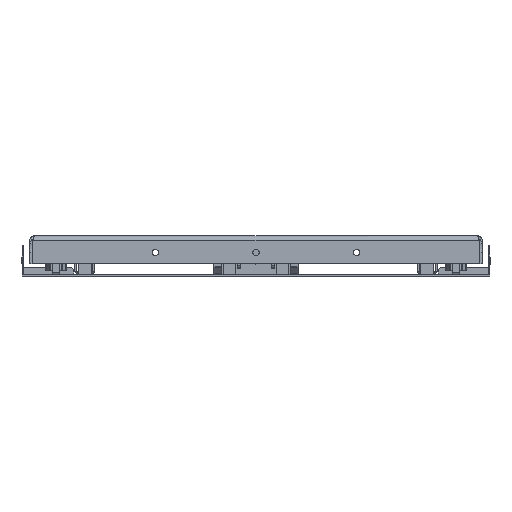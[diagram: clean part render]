
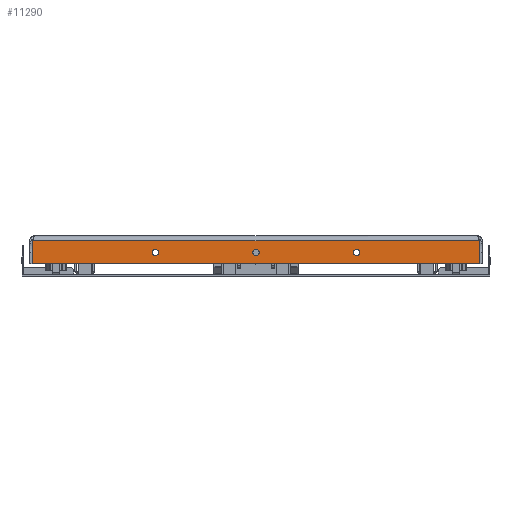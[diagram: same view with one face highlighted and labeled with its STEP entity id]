
A CAD part, left-side view. The second image highlights one B-rep face of the part: STEP entity #11290.
In plain terms, the highlighted planar face has unit normal (-1, 0, 0) as drawn and (0, -1, 0) by its records, which use the part's own axes.
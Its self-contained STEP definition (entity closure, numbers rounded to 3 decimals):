
#667=PLANE('',#12550);
#1538=LINE('',#19637,#2538);
#1554=LINE('',#19770,#2554);
#1556=LINE('',#19774,#2556);
#1557=LINE('',#19776,#2557);
#1558=LINE('',#19778,#2558);
#1559=LINE('',#19779,#2559);
#2538=VECTOR('',#15427,10.);
#2554=VECTOR('',#15455,10.);
#2556=VECTOR('',#15459,10.);
#2557=VECTOR('',#15460,10.);
#2558=VECTOR('',#15461,10.);
#2559=VECTOR('',#15462,10.);
#2886=FACE_BOUND('',#4165,.T.);
#2887=FACE_BOUND('',#4166,.T.);
#2888=FACE_BOUND('',#4167,.T.);
#3399=FACE_OUTER_BOUND('',#4164,.T.);
#4164=EDGE_LOOP('',(#9839,#9840,#9841,#9842,#9843,#9844));
#4165=EDGE_LOOP('',(#9845));
#4166=EDGE_LOOP('',(#9846));
#4167=EDGE_LOOP('',(#9847));
#4523=CIRCLE('',#12126,6.25);
#4525=CIRCLE('',#12129,6.25);
#4527=CIRCLE('',#12132,6.25);
#5214=VERTEX_POINT('',#18295);
#5216=VERTEX_POINT('',#18300);
#5218=VERTEX_POINT('',#18305);
#5645=VERTEX_POINT('',#19635);
#5646=VERTEX_POINT('',#19636);
#5666=VERTEX_POINT('',#19769);
#5667=VERTEX_POINT('',#19773);
#5668=VERTEX_POINT('',#19775);
#5669=VERTEX_POINT('',#19777);
#6467=EDGE_CURVE('',#5214,#5214,#4523,.T.);
#6469=EDGE_CURVE('',#5216,#5216,#4525,.T.);
#6471=EDGE_CURVE('',#5218,#5218,#4527,.T.);
#7106=EDGE_CURVE('',#5645,#5646,#1538,.T.);
#7133=EDGE_CURVE('',#5645,#5666,#1554,.T.);
#7135=EDGE_CURVE('',#5646,#5667,#1556,.T.);
#7136=EDGE_CURVE('',#5667,#5668,#1557,.T.);
#7137=EDGE_CURVE('',#5669,#5668,#1558,.T.);
#7138=EDGE_CURVE('',#5666,#5669,#1559,.T.);
#9839=ORIENTED_EDGE('',*,*,#7106,.T.);
#9840=ORIENTED_EDGE('',*,*,#7135,.T.);
#9841=ORIENTED_EDGE('',*,*,#7136,.T.);
#9842=ORIENTED_EDGE('',*,*,#7137,.F.);
#9843=ORIENTED_EDGE('',*,*,#7138,.F.);
#9844=ORIENTED_EDGE('',*,*,#7133,.F.);
#9845=ORIENTED_EDGE('',*,*,#6467,.T.);
#9846=ORIENTED_EDGE('',*,*,#6469,.T.);
#9847=ORIENTED_EDGE('',*,*,#6471,.T.);
#11290=ADVANCED_FACE('',(#3399,#2886,#2887,#2888),#667,.T.);
#12126=AXIS2_PLACEMENT_3D('',#18296,#14154,#14155);
#12129=AXIS2_PLACEMENT_3D('',#18301,#14160,#14161);
#12132=AXIS2_PLACEMENT_3D('',#18306,#14166,#14167);
#12550=AXIS2_PLACEMENT_3D('',#19772,#15457,#15458);
#14154=DIRECTION('center_axis',(0.,1.,0.));
#14155=DIRECTION('ref_axis',(1.,0.,0.));
#14160=DIRECTION('center_axis',(0.,1.,0.));
#14161=DIRECTION('ref_axis',(1.,0.,0.));
#14166=DIRECTION('center_axis',(0.,1.,0.));
#14167=DIRECTION('ref_axis',(1.,0.,0.));
#15427=DIRECTION('',(-0.057,0.,0.998));
#15455=DIRECTION('',(0.,0.,-1.));
#15457=DIRECTION('center_axis',(0.,-1.,0.));
#15458=DIRECTION('ref_axis',(1.,0.,0.));
#15459=DIRECTION('',(-1.,0.,0.));
#15460=DIRECTION('',(-0.057,0.,-0.998));
#15461=DIRECTION('',(0.,0.,1.));
#15462=DIRECTION('',(-1.,0.,0.));
#18295=CARTESIAN_POINT('',(206.25,-750.,-28.));
#18296=CARTESIAN_POINT('Origin',(200.,-750.,-28.));
#18300=CARTESIAN_POINT('',(6.25,-750.,-28.));
#18301=CARTESIAN_POINT('Origin',(0.,-750.,-28.));
#18305=CARTESIAN_POINT('',(-193.75,-750.,-28.));
#18306=CARTESIAN_POINT('Origin',(-200.,-750.,-28.));
#19635=CARTESIAN_POINT('',(444.5,-750.,-21.413));
#19636=CARTESIAN_POINT('',(443.562,-750.,-5.));
#19637=CARTESIAN_POINT('',(443.808,-750.,-9.298));
#19769=CARTESIAN_POINT('',(444.5,-750.,-50.));
#19770=CARTESIAN_POINT('',(444.5,-750.,-5.));
#19772=CARTESIAN_POINT('Origin',(0.,-750.,-22.504));
#19773=CARTESIAN_POINT('',(-443.562,-750.,-5.));
#19774=CARTESIAN_POINT('',(0.,-750.,-5.));
#19775=CARTESIAN_POINT('',(-444.5,-750.,-21.413));
#19776=CARTESIAN_POINT('',(-443.808,-750.,-9.298));
#19777=CARTESIAN_POINT('',(-444.5,-750.,-50.));
#19778=CARTESIAN_POINT('',(-444.5,-750.,-5.));
#19779=CARTESIAN_POINT('',(444.5,-750.,-50.));
